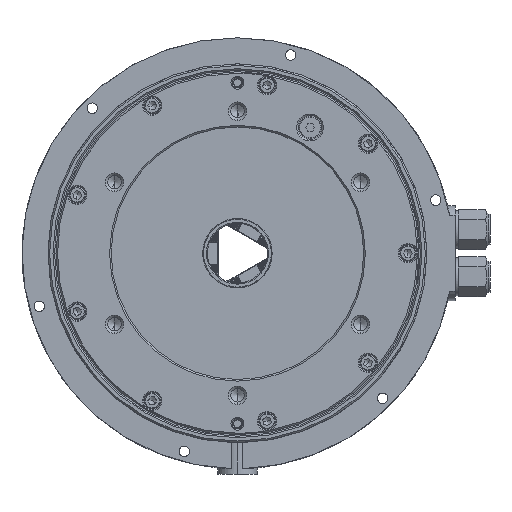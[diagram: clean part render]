
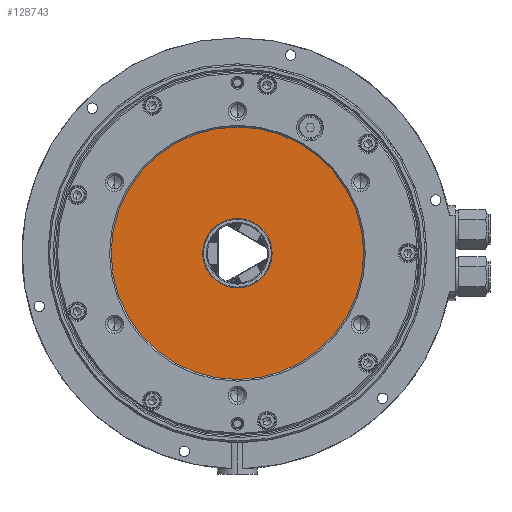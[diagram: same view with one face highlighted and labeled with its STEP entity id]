
A CAD part, left-side view. The second image highlights one B-rep face of the part: STEP entity #128743.
In plain terms, the highlighted planar face has unit normal (-1, 0, 0).
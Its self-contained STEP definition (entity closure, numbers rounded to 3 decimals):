
#10580 = CARTESIAN_POINT ( 'NONE',  ( -7.5, 0., 80. ) ) ;
#12817 = AXIS2_PLACEMENT_3D ( 'NONE', #41479, #81482, #121528 ) ;
#19684 = VERTEX_POINT ( 'NONE', #77326 ) ;
#20200 = DIRECTION ( 'NONE',  ( 0., 0., -1. ) ) ;
#24637 = DIRECTION ( 'NONE',  ( -1., 0., 0. ) ) ;
#25846 = EDGE_CURVE ( 'NONE', #19684, #68551, #61042, .T. ) ;
#27582 = CARTESIAN_POINT ( 'NONE',  ( -7.5, 0., 0. ) ) ;
#31551 = EDGE_CURVE ( 'NONE', #97659, #72225, #112074, .T. ) ;
#32803 = AXIS2_PLACEMENT_3D ( 'NONE', #41367, #72810, #121419 ) ;
#34439 = FACE_OUTER_BOUND ( 'NONE', #100129, .T. ) ;
#34551 = AXIS2_PLACEMENT_3D ( 'NONE', #113241, #24637, #93525 ) ;
#35608 = ORIENTED_EDGE ( 'NONE', *, *, #31551, .T. ) ;
#35806 = EDGE_CURVE ( 'NONE', #72225, #97659, #45848, .T. ) ;
#41367 = CARTESIAN_POINT ( 'NONE',  ( -7.5, 0., 0. ) ) ;
#41479 = CARTESIAN_POINT ( 'NONE',  ( -7.5, 0., 0. ) ) ;
#44501 = CARTESIAN_POINT ( 'NONE',  ( -7.5, 0., -22. ) ) ;
#45848 = CIRCLE ( 'NONE', #119208, 80. ) ;
#46884 = ORIENTED_EDGE ( 'NONE', *, *, #35806, .T. ) ;
#60891 = FACE_BOUND ( 'NONE', #102371, .T. ) ;
#61042 = CIRCLE ( 'NONE', #12817, 22. ) ;
#68551 = VERTEX_POINT ( 'NONE', #44501 ) ;
#72225 = VERTEX_POINT ( 'NONE', #10580 ) ;
#72810 = DIRECTION ( 'NONE',  ( -1., 0., 0. ) ) ;
#74435 = DIRECTION ( 'NONE',  ( 1., 0., 0. ) ) ;
#77326 = CARTESIAN_POINT ( 'NONE',  ( -7.5, 0., 22. ) ) ;
#79914 = ORIENTED_EDGE ( 'NONE', *, *, #25846, .F. ) ;
#81482 = DIRECTION ( 'NONE',  ( -1., 0., 0. ) ) ;
#87367 = ORIENTED_EDGE ( 'NONE', *, *, #128309, .F. ) ;
#93525 = DIRECTION ( 'NONE',  ( 0., 0., 1. ) ) ;
#93636 = AXIS2_PLACEMENT_3D ( 'NONE', #100877, #74435, #20200 ) ;
#97659 = VERTEX_POINT ( 'NONE', #107066 ) ;
#100129 = EDGE_LOOP ( 'NONE', ( #46884, #35608 ) ) ;
#100877 = CARTESIAN_POINT ( 'NONE',  ( -7.5, 22., 0. ) ) ;
#102371 = EDGE_LOOP ( 'NONE', ( #79914, #87367 ) ) ;
#104988 = DIRECTION ( 'NONE',  ( 0., 0., 1. ) ) ;
#107066 = CARTESIAN_POINT ( 'NONE',  ( -7.5, 0., -80. ) ) ;
#112074 = CIRCLE ( 'NONE', #34551, 80. ) ;
#113241 = CARTESIAN_POINT ( 'NONE',  ( -7.5, 0., 0. ) ) ;
#113835 = PLANE ( 'NONE',  #93636 ) ;
#119208 = AXIS2_PLACEMENT_3D ( 'NONE', #27582, #127332, #104988 ) ;
#121419 = DIRECTION ( 'NONE',  ( 0., 0., 1. ) ) ;
#121528 = DIRECTION ( 'NONE',  ( 0., 0., 1. ) ) ;
#127332 = DIRECTION ( 'NONE',  ( -1., 0., 0. ) ) ;
#128309 = EDGE_CURVE ( 'NONE', #68551, #19684, #129207, .T. ) ;
#128743 = ADVANCED_FACE ( 'NONE', ( #60891, #34439 ), #113835, .F. ) ;
#129207 = CIRCLE ( 'NONE', #32803, 22. ) ;
